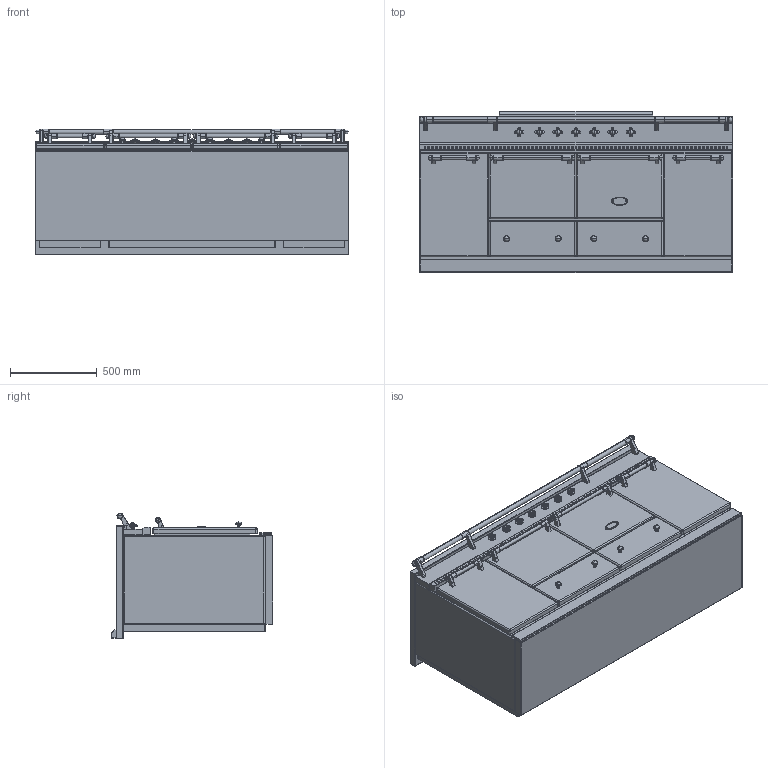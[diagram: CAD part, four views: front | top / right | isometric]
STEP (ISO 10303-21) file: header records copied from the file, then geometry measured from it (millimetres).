
FILE_DESCRIPTION((''),'2;1');
FILE_NAME('LVI1852_ASM','2014-07-29T',('r.avril'),(''),'PRO/ENGINEER BY PARAMETRIC TECHNOLOGY CORPORATION, 2014090','PRO/ENGINEER BY PARAMETRIC TECHNOLOGY CORPORATION, 2014090','');
FILE_SCHEMA(('AP203_CONFIGURATION_CONTROLLED_3D_DESIGN_OF_MECHANICAL_PARTS_AND_ASSEMBLIES_MIM_LF { 1 0 10303 403 2 1 2 }'));
Products named in the file (19): BASE_EXPORT_CLUNY_1800; 65650003; 65650004; 6531940; 6531941; 6531943; 6538399; 1931942; 6518450; 6531942_ASM; 65049009; 65650001; 65650006; 65650007; BASE_EXPORT_CLUNY_1800_ASM; TABLE_1800_INDUCTION; 65052013; TABLE_1800_INDUCTION_ASM; LVI1852_ASM
Assembly tree (33 placements, depth 4):
  LVI1852_ASM
    BASE_EXPORT_CLUNY_1800_ASM
      BASE_EXPORT_CLUNY_1800
      65650003
      65650004
      6531940  x4
      6531941  x4
      6531943  x4
      6531942_ASM  x7
        6538399
        1931942
        6518450
      65049009
      65650001
      65650006
      65650007
    TABLE_1800_INDUCTION_ASM
      TABLE_1800_INDUCTION
      65052013
Bounding box: 1805 x 930.5 x 724 mm (x, y, z)
Volume: 947375389.5 mm3; surface area: 14015765.3 mm2
Topology: 44 solids, 60 shells, 4385 faces, 11859 edges, 7925 vertices
Faces by surface type: plane 2296, cylinder 1263, torus 262, sphere 198, extrusion 198, cone 86, bspline 62, revolution 20
Entity records: 91163 total; most frequent: CARTESIAN_POINT 16908, DIRECTION 12841, ORIENTED_EDGE 10880, EDGE_CURVE 5454, AXIS2_PLACEMENT_3D 4401, VECTOR 3974, LINE 3944, VERTEX_POINT 3471
